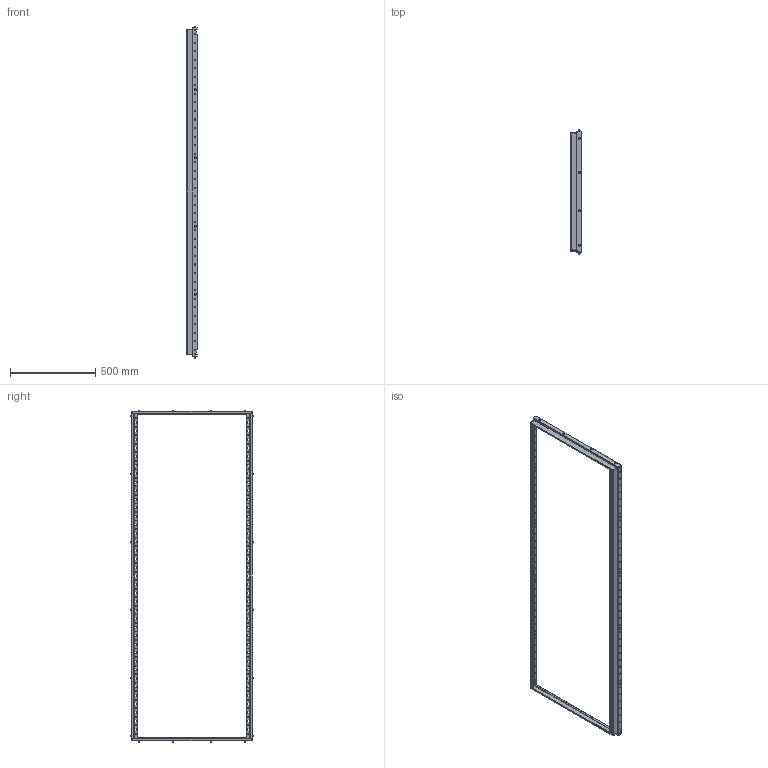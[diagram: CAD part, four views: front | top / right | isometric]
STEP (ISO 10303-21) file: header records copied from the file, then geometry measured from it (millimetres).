
FILE_DESCRIPTION (( 'STEP AP214' ), '1' );
FILE_NAME ('FO-00-UVF-200-080 Ðàìà äëÿ ïëàñòðîíîâ 2000õ800.STEP', '2025-09-25T08:44:34', ( '' ), ( '' ), 'SwSTEP 2.0', 'SolidWorks 2023', '' );
FILE_SCHEMA (( 'AUTOMOTIVE_DESIGN' ));
Length unit declared in the file: millimetre
Products named in the file (1): FO-00-UVF-200-080 Рама для пластронов 2000х800
Bounding box: 60.8 x 725 x 1946 mm (x, y, z)
Volume: 798375.8 mm3; surface area: 960359.8 mm2
Topology: 1 solids, 1 shells, 1842 faces, 4898 edges, 3234 vertices
Faces by surface type: plane 978, cylinder 784, sphere 32, cone 32, torus 16
Entity records: 58757 total; most frequent: CARTESIAN_POINT 11047, ORIENTED_EDGE 9796, DIRECTION 9736, EDGE_CURVE 4898, AXIS2_PLACEMENT_3D 3267, VERTEX_POINT 3234, LINE 3202, VECTOR 3202
